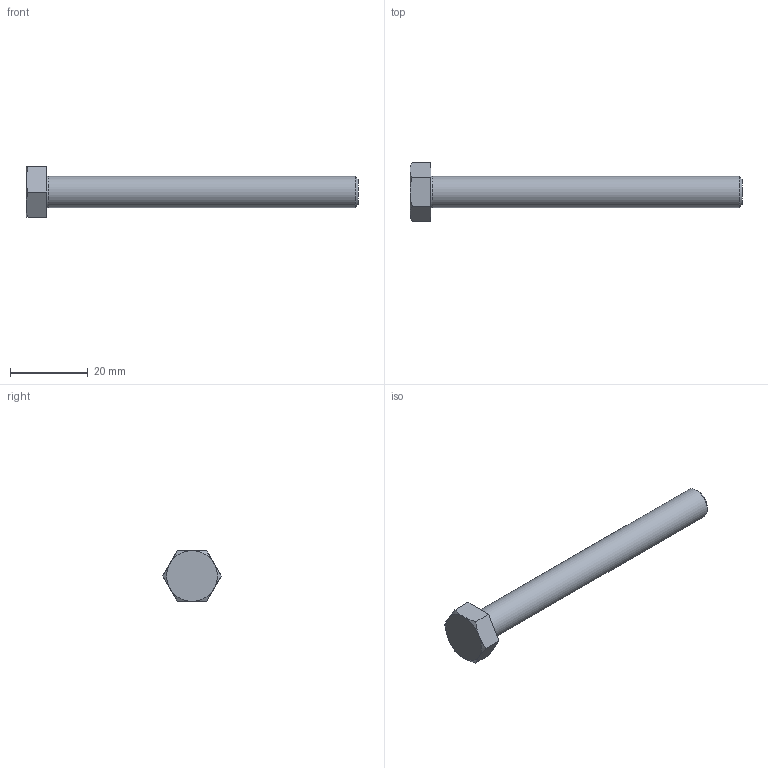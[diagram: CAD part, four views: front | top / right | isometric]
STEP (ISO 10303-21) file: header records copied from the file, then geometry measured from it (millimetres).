
FILE_DESCRIPTION(/* description */ ('6각 머리 볼트 및 6각 머리 나사'),/* implementation_level */ '2;1');
FILE_NAME(/* name */ '',/* time_stamp */ '2025-01-09T17:58:32+09:00',/* author */ ('jhkim'),/* organization */ (''),/* preprocessor_version */ 'ST-DEVELOPER v20',/* originating_system */ 'Autodesk Inventor 2025',/* authorisation */ '');
FILE_SCHEMA (('AUTOMOTIVE_DESIGN { 1 0 10303 214 3 1 1 }'));
Length unit declared in the file: millimetre
Products named in the file (1): 육각 머리 볼트 M8x80
Bounding box: 85.3 x 15.01 x 13 mm (x, y, z)
Volume: 4788.5 mm3; surface area: 2518.9 mm2
Topology: 1 solids, 1 shells, 18 faces, 39 edges, 24 vertices
Faces by surface type: plane 9, cone 7, torus 1, cylinder 1
Full cylindrical faces by diameter (mm): 8 x1
Entity records: 519 total; most frequent: CARTESIAN_POINT 106, ORIENTED_EDGE 78, DIRECTION 78, EDGE_CURVE 39, AXIS2_PLACEMENT_3D 32, VERTEX_POINT 24, EDGE_LOOP 19, FACE_OUTER_BOUND 18
